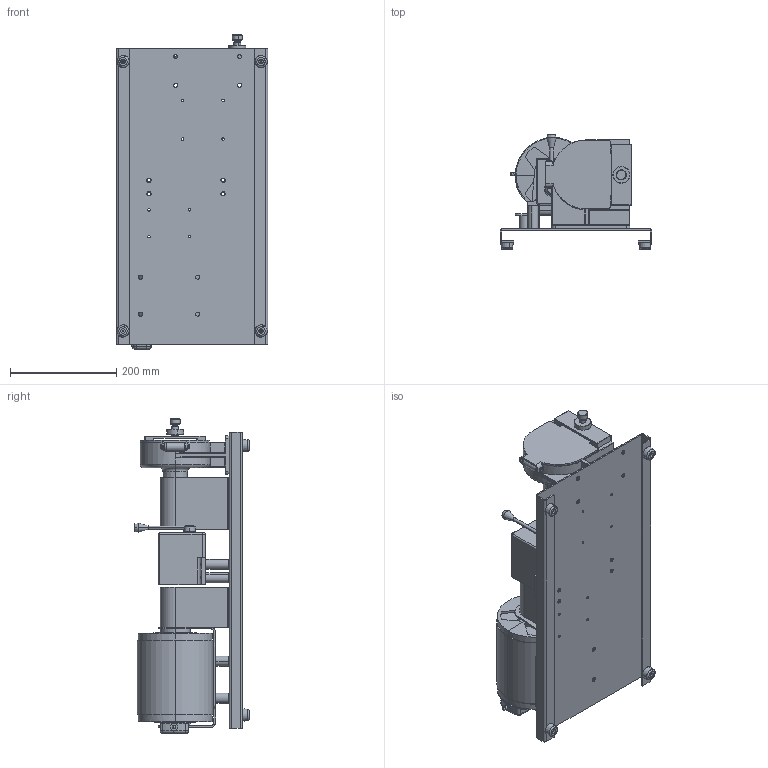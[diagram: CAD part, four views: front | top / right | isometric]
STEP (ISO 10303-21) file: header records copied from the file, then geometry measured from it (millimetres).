
FILE_DESCRIPTION (( 'STEP AP203' ), '1' );
FILE_NAME ('610-101.STEP', '2012-03-20T18:55:18', ( ' ' ), ( ' ' ), 'SwSTEP 2.0', 'SolidWorks 2011', '' );
FILE_SCHEMA (( 'CONFIG_CONTROL_DESIGN' ));
Length unit declared in the file: inch
Products named in the file (1): 610-101
Bounding box: 285.75 x 215.91 x 593.36 mm (x, y, z)
Surface area: 933858.2 mm2 (no closed solid volume)
Topology: 0 solids, 32 shells, 696 faces, 2106 edges, 1412 vertices
Faces by surface type: cylinder 335, plane 208, cone 74, torus 67, sphere 6, bspline 6
Entity records: 25351 total; most frequent: CARTESIAN_POINT 5909, DIRECTION 4396, ORIENTED_EDGE 3633, EDGE_CURVE 2097, AXIS2_PLACEMENT_3D 1712, VERTEX_POINT 1412, CIRCLE 1021, VECTOR 972
